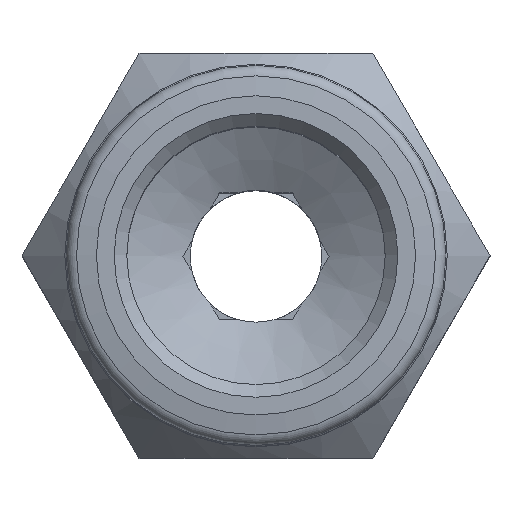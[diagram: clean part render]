
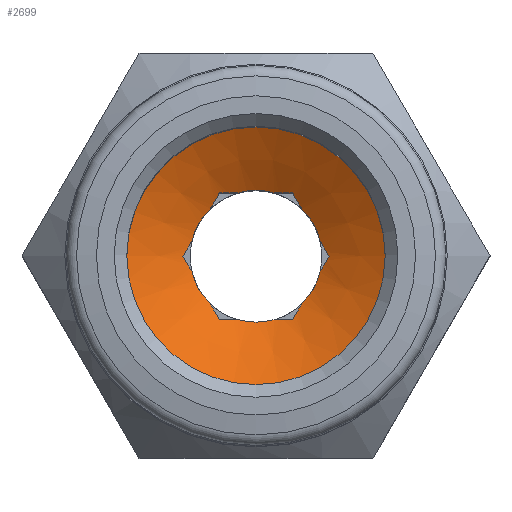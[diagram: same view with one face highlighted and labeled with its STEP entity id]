
A CAD part, top view. The second image highlights one B-rep face of the part: STEP entity #2699.
In plain terms, the highlighted conical face has half-angle 60 degrees and reference radius 5.1 mm.
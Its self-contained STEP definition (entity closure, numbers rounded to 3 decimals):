
#16=HYPERBOLA('',#2590,1.443,2.5);
#17=HYPERBOLA('',#2591,1.443,2.5);
#18=HYPERBOLA('',#2592,1.443,2.5);
#19=HYPERBOLA('',#2593,1.443,2.5);
#20=HYPERBOLA('',#2594,1.443,2.5);
#21=HYPERBOLA('',#2595,1.443,2.5);
#22=HYPERBOLA('',#2596,1.443,2.5);
#23=HYPERBOLA('',#2597,1.443,2.5);
#24=HYPERBOLA('',#2598,1.443,2.5);
#25=HYPERBOLA('',#2599,1.443,2.5);
#26=HYPERBOLA('',#2600,1.443,2.5);
#27=HYPERBOLA('',#2601,1.443,2.5);
#1246=CONICAL_SURFACE('',#2589,5.1,60.);
#1372=ORIENTED_EDGE('',*,*,#1686,.T.);
#1373=ORIENTED_EDGE('',*,*,#1649,.T.);
#1374=ORIENTED_EDGE('',*,*,#1687,.T.);
#1375=ORIENTED_EDGE('',*,*,#1688,.T.);
#1376=ORIENTED_EDGE('',*,*,#1645,.T.);
#1377=ORIENTED_EDGE('',*,*,#1689,.T.);
#1378=ORIENTED_EDGE('',*,*,#1690,.T.);
#1379=ORIENTED_EDGE('',*,*,#1641,.T.);
#1380=ORIENTED_EDGE('',*,*,#1691,.T.);
#1381=ORIENTED_EDGE('',*,*,#1692,.T.);
#1382=ORIENTED_EDGE('',*,*,#1637,.T.);
#1383=ORIENTED_EDGE('',*,*,#1693,.T.);
#1384=ORIENTED_EDGE('',*,*,#1694,.T.);
#1385=ORIENTED_EDGE('',*,*,#1633,.T.);
#1386=ORIENTED_EDGE('',*,*,#1695,.T.);
#1387=ORIENTED_EDGE('',*,*,#1696,.T.);
#1388=ORIENTED_EDGE('',*,*,#1629,.T.);
#1389=ORIENTED_EDGE('',*,*,#1697,.T.);
#1390=ORIENTED_EDGE('',*,*,#1698,.T.);
#1495=CIRCLE('',#2526,2.6);
#1497=CIRCLE('',#2528,2.6);
#1499=CIRCLE('',#2530,2.6);
#1501=CIRCLE('',#2532,2.6);
#1503=CIRCLE('',#2534,2.6);
#1505=CIRCLE('',#2536,2.6);
#1528=CIRCLE('',#2588,5.1);
#1542=VERTEX_POINT('',#2277);
#1545=VERTEX_POINT('',#2282);
#1546=VERTEX_POINT('',#2284);
#1549=VERTEX_POINT('',#2290);
#1550=VERTEX_POINT('',#2292);
#1553=VERTEX_POINT('',#2298);
#1554=VERTEX_POINT('',#2300);
#1557=VERTEX_POINT('',#2306);
#1558=VERTEX_POINT('',#2308);
#1561=VERTEX_POINT('',#2314);
#1562=VERTEX_POINT('',#2316);
#1565=VERTEX_POINT('',#2322);
#1600=VERTEX_POINT('',#2418);
#1601=VERTEX_POINT('',#2421);
#1602=VERTEX_POINT('',#2424);
#1603=VERTEX_POINT('',#2427);
#1604=VERTEX_POINT('',#2430);
#1605=VERTEX_POINT('',#2433);
#1606=VERTEX_POINT('',#2436);
#1629=EDGE_CURVE('',#1546,#1545,#1495,.T.);
#1633=EDGE_CURVE('',#1550,#1549,#1497,.T.);
#1637=EDGE_CURVE('',#1554,#1553,#1499,.T.);
#1641=EDGE_CURVE('',#1558,#1557,#1501,.T.);
#1645=EDGE_CURVE('',#1562,#1561,#1503,.T.);
#1649=EDGE_CURVE('',#1542,#1565,#1505,.T.);
#1686=EDGE_CURVE('',#1600,#1600,#1528,.T.);
#1687=EDGE_CURVE('',#1565,#1601,#16,.T.);
#1688=EDGE_CURVE('',#1601,#1562,#17,.T.);
#1689=EDGE_CURVE('',#1561,#1602,#18,.T.);
#1690=EDGE_CURVE('',#1602,#1558,#19,.T.);
#1691=EDGE_CURVE('',#1557,#1603,#20,.T.);
#1692=EDGE_CURVE('',#1603,#1554,#21,.T.);
#1693=EDGE_CURVE('',#1553,#1604,#22,.T.);
#1694=EDGE_CURVE('',#1604,#1550,#23,.T.);
#1695=EDGE_CURVE('',#1549,#1605,#24,.T.);
#1696=EDGE_CURVE('',#1605,#1546,#25,.T.);
#1697=EDGE_CURVE('',#1545,#1606,#26,.T.);
#1698=EDGE_CURVE('',#1606,#1542,#27,.T.);
#1792=EDGE_LOOP('',(#1372));
#1793=EDGE_LOOP('',(#1373,#1374,#1375,#1376,#1377,#1378,#1379,#1380,#1381,
#1382,#1383,#1384,#1385,#1386,#1387,#1388,#1389,#1390));
#1892=FACE_BOUND('',#1792,.F.);
#1893=FACE_BOUND('',#1793,.F.);
#1987=DIRECTION('',(0.,1.,0.));
#1988=DIRECTION('',(0.,0.,-2.6));
#1993=DIRECTION('',(0.,1.,0.));
#1994=DIRECTION('',(0.,0.,-2.6));
#1999=DIRECTION('',(0.,1.,0.));
#2000=DIRECTION('',(0.,0.,-2.6));
#2005=DIRECTION('',(0.,1.,0.));
#2006=DIRECTION('',(0.,0.,-2.6));
#2011=DIRECTION('',(0.,1.,0.));
#2012=DIRECTION('',(0.,0.,-2.6));
#2017=DIRECTION('',(0.,1.,0.));
#2018=DIRECTION('',(0.,0.,-2.6));
#2129=DIRECTION('',(0.,-1.,0.));
#2130=DIRECTION('',(0.,0.,5.1));
#2131=DIRECTION('',(0.,1.,0.));
#2132=DIRECTION('',(1.,0.,0.));
#2133=DIRECTION('',(0.,0.,1.));
#2134=DIRECTION('',(0.,1.,0.));
#2135=DIRECTION('',(0.866,0.,0.5));
#2136=DIRECTION('',(0.,1.,0.));
#2137=DIRECTION('',(0.866,0.,0.5));
#2138=DIRECTION('',(0.,1.,0.));
#2139=DIRECTION('',(0.866,0.,-0.5));
#2140=DIRECTION('',(0.,1.,0.));
#2141=DIRECTION('',(0.866,0.,-0.5));
#2142=DIRECTION('',(0.,1.,0.));
#2143=DIRECTION('',(0.,0.,-1.));
#2144=DIRECTION('',(0.,1.,0.));
#2145=DIRECTION('',(0.,0.,-1.));
#2146=DIRECTION('',(0.,1.,0.));
#2147=DIRECTION('',(-0.866,0.,-0.5));
#2148=DIRECTION('',(0.,1.,0.));
#2149=DIRECTION('',(-0.866,0.,-0.5));
#2150=DIRECTION('',(0.,1.,0.));
#2151=DIRECTION('',(-0.866,0.,0.5));
#2152=DIRECTION('',(0.,1.,0.));
#2153=DIRECTION('',(-0.866,0.,0.5));
#2154=DIRECTION('',(0.,1.,0.));
#2155=DIRECTION('',(0.,0.,1.));
#2156=DIRECTION('',(0.,1.,0.));
#2277=CARTESIAN_POINT('',(17.261,23.551,-2.5));
#2282=CARTESIAN_POINT('',(18.355,23.551,-1.868));
#2284=CARTESIAN_POINT('',(19.069,23.551,-0.632));
#2285=CARTESIAN_POINT('',(16.547,23.551,0.));
#2290=CARTESIAN_POINT('',(19.069,23.551,0.632));
#2292=CARTESIAN_POINT('',(18.355,23.551,1.868));
#2293=CARTESIAN_POINT('',(16.547,23.551,0.));
#2298=CARTESIAN_POINT('',(17.261,23.551,2.5));
#2300=CARTESIAN_POINT('',(15.833,23.551,2.5));
#2301=CARTESIAN_POINT('',(16.547,23.551,0.));
#2306=CARTESIAN_POINT('',(14.739,23.551,1.868));
#2308=CARTESIAN_POINT('',(14.025,23.551,0.632));
#2309=CARTESIAN_POINT('',(16.547,23.551,0.));
#2314=CARTESIAN_POINT('',(14.025,23.551,-0.632));
#2316=CARTESIAN_POINT('',(14.739,23.551,-1.868));
#2317=CARTESIAN_POINT('',(16.547,23.551,0.));
#2322=CARTESIAN_POINT('',(15.833,23.551,-2.5));
#2324=CARTESIAN_POINT('',(16.547,23.551,0.));
#2418=CARTESIAN_POINT('',(16.547,24.994,5.1));
#2419=CARTESIAN_POINT('',(16.547,24.994,0.));
#2420=CARTESIAN_POINT('',(16.547,24.994,0.));
#2421=CARTESIAN_POINT('',(15.104,23.716,-2.5));
#2422=CARTESIAN_POINT('',(16.547,22.049,-2.5));
#2423=CARTESIAN_POINT('',(14.382,22.049,-1.25));
#2424=CARTESIAN_POINT('',(13.66,23.716,0.));
#2425=CARTESIAN_POINT('',(14.382,22.049,-1.25));
#2426=CARTESIAN_POINT('',(14.382,22.049,1.25));
#2427=CARTESIAN_POINT('',(15.104,23.716,2.5));
#2428=CARTESIAN_POINT('',(14.382,22.049,1.25));
#2429=CARTESIAN_POINT('',(16.547,22.049,2.5));
#2430=CARTESIAN_POINT('',(17.99,23.716,2.5));
#2431=CARTESIAN_POINT('',(16.547,22.049,2.5));
#2432=CARTESIAN_POINT('',(18.712,22.049,1.25));
#2433=CARTESIAN_POINT('',(19.434,23.716,0.));
#2434=CARTESIAN_POINT('',(18.712,22.049,1.25));
#2435=CARTESIAN_POINT('',(18.712,22.049,-1.25));
#2436=CARTESIAN_POINT('',(17.99,23.716,-2.5));
#2437=CARTESIAN_POINT('',(18.712,22.049,-1.25));
#2438=CARTESIAN_POINT('',(16.547,22.049,-2.5));
#2526=AXIS2_PLACEMENT_3D('',#2285,#1987,#1988);
#2528=AXIS2_PLACEMENT_3D('',#2293,#1993,#1994);
#2530=AXIS2_PLACEMENT_3D('',#2301,#1999,#2000);
#2532=AXIS2_PLACEMENT_3D('',#2309,#2005,#2006);
#2534=AXIS2_PLACEMENT_3D('',#2317,#2011,#2012);
#2536=AXIS2_PLACEMENT_3D('',#2324,#2017,#2018);
#2588=AXIS2_PLACEMENT_3D('',#2419,#2129,#2130);
#2589=AXIS2_PLACEMENT_3D('',#2420,#2131,#2132);
#2590=AXIS2_PLACEMENT_3D('',#2422,#2133,#2134);
#2591=AXIS2_PLACEMENT_3D('',#2423,#2135,#2136);
#2592=AXIS2_PLACEMENT_3D('',#2425,#2137,#2138);
#2593=AXIS2_PLACEMENT_3D('',#2426,#2139,#2140);
#2594=AXIS2_PLACEMENT_3D('',#2428,#2141,#2142);
#2595=AXIS2_PLACEMENT_3D('',#2429,#2143,#2144);
#2596=AXIS2_PLACEMENT_3D('',#2431,#2145,#2146);
#2597=AXIS2_PLACEMENT_3D('',#2432,#2147,#2148);
#2598=AXIS2_PLACEMENT_3D('',#2434,#2149,#2150);
#2599=AXIS2_PLACEMENT_3D('',#2435,#2151,#2152);
#2600=AXIS2_PLACEMENT_3D('',#2437,#2153,#2154);
#2601=AXIS2_PLACEMENT_3D('',#2438,#2155,#2156);
#2699=ADVANCED_FACE('',(#1892,#1893),#1246,.F.);
